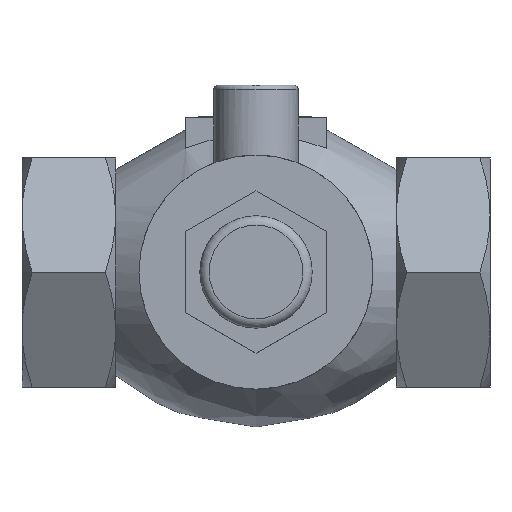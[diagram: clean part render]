
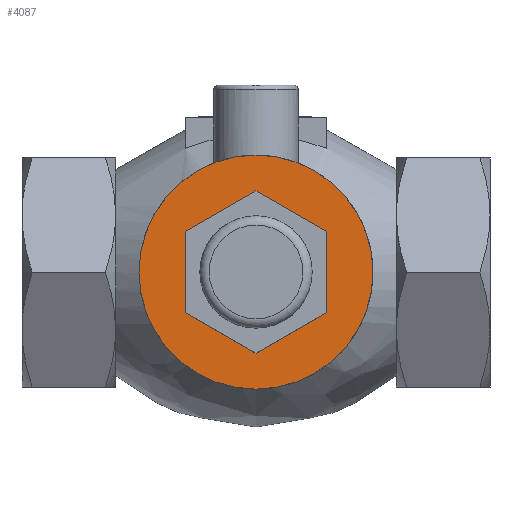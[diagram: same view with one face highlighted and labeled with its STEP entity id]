
A CAD part, top view. The second image highlights one B-rep face of the part: STEP entity #4087.
In plain terms, the highlighted planar face has unit normal (0, 0, 1).
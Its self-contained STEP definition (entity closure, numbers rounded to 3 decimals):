
#149=FACE_BOUND('',#1606,.T.);
#298=PLANE('',#4372);
#734=LINE('',#7224,#1096);
#738=LINE('',#7231,#1100);
#741=LINE('',#7237,#1103);
#744=LINE('',#7243,#1106);
#747=LINE('',#7249,#1109);
#749=LINE('',#7252,#1111);
#1096=VECTOR('',#5199,10.);
#1100=VECTOR('',#5205,10.);
#1103=VECTOR('',#5210,10.);
#1106=VECTOR('',#5215,10.);
#1109=VECTOR('',#5220,10.);
#1111=VECTOR('',#5224,10.);
#1354=FACE_OUTER_BOUND('',#1605,.T.);
#1605=EDGE_LOOP('',(#3746,#3747));
#1606=EDGE_LOOP('',(#3748,#3749,#3750,#3751,#3752,#3753));
#1704=CIRCLE('',#4370,12.5);
#1705=CIRCLE('',#4371,12.5);
#2076=VERTEX_POINT('',#7221);
#2077=VERTEX_POINT('',#7223);
#2079=VERTEX_POINT('',#7229);
#2081=VERTEX_POINT('',#7235);
#2083=VERTEX_POINT('',#7241);
#2085=VERTEX_POINT('',#7247);
#2093=VERTEX_POINT('',#7323);
#2094=VERTEX_POINT('',#7324);
#2645=EDGE_CURVE('',#2077,#2076,#734,.T.);
#2649=EDGE_CURVE('',#2076,#2079,#738,.T.);
#2652=EDGE_CURVE('',#2079,#2081,#741,.T.);
#2655=EDGE_CURVE('',#2081,#2083,#744,.T.);
#2658=EDGE_CURVE('',#2083,#2085,#747,.T.);
#2660=EDGE_CURVE('',#2085,#2077,#749,.T.);
#2669=EDGE_CURVE('',#2093,#2094,#1704,.T.);
#2670=EDGE_CURVE('',#2094,#2093,#1705,.T.);
#3746=ORIENTED_EDGE('',*,*,#2669,.T.);
#3747=ORIENTED_EDGE('',*,*,#2670,.T.);
#3748=ORIENTED_EDGE('',*,*,#2645,.T.);
#3749=ORIENTED_EDGE('',*,*,#2649,.T.);
#3750=ORIENTED_EDGE('',*,*,#2652,.T.);
#3751=ORIENTED_EDGE('',*,*,#2655,.T.);
#3752=ORIENTED_EDGE('',*,*,#2658,.T.);
#3753=ORIENTED_EDGE('',*,*,#2660,.T.);
#4087=ADVANCED_FACE('',(#1354,#149),#298,.T.);
#4370=AXIS2_PLACEMENT_3D('',#7325,#5247,#5248);
#4371=AXIS2_PLACEMENT_3D('',#7326,#5249,#5250);
#4372=AXIS2_PLACEMENT_3D('',#7328,#5252,#5253);
#5199=DIRECTION('',(0.,-1.,0.));
#5205=DIRECTION('',(-0.866,-0.5,0.));
#5210=DIRECTION('',(-0.866,0.5,0.));
#5215=DIRECTION('',(0.,1.,0.));
#5220=DIRECTION('',(0.866,0.5,0.));
#5224=DIRECTION('',(0.866,-0.5,0.));
#5247=DIRECTION('center_axis',(0.,0.,1.));
#5248=DIRECTION('ref_axis',(1.,0.,0.));
#5249=DIRECTION('center_axis',(0.,0.,1.));
#5250=DIRECTION('ref_axis',(1.,0.,0.));
#5252=DIRECTION('center_axis',(0.,0.,1.));
#5253=DIRECTION('ref_axis',(1.,0.,0.));
#7221=CARTESIAN_POINT('',(7.5,-4.33,26.));
#7223=CARTESIAN_POINT('',(7.5,4.33,26.));
#7224=CARTESIAN_POINT('',(7.5,2.165,26.));
#7229=CARTESIAN_POINT('',(0.,-8.66,26.));
#7231=CARTESIAN_POINT('',(7.969,-4.059,26.));
#7235=CARTESIAN_POINT('',(-7.5,-4.33,26.));
#7237=CARTESIAN_POINT('',(0.469,-8.931,26.));
#7241=CARTESIAN_POINT('',(-7.5,4.33,26.));
#7243=CARTESIAN_POINT('',(-7.5,-2.165,26.));
#7247=CARTESIAN_POINT('',(0.,8.66,26.));
#7249=CARTESIAN_POINT('',(-3.281,6.766,26.));
#7252=CARTESIAN_POINT('',(4.219,6.225,26.));
#7323=CARTESIAN_POINT('',(12.5,0.,26.));
#7324=CARTESIAN_POINT('',(-12.5,0.,26.));
#7325=CARTESIAN_POINT('Origin',(0.,0.,26.));
#7326=CARTESIAN_POINT('Origin',(0.,0.,26.));
#7328=CARTESIAN_POINT('Origin',(6.25,0.,26.));
